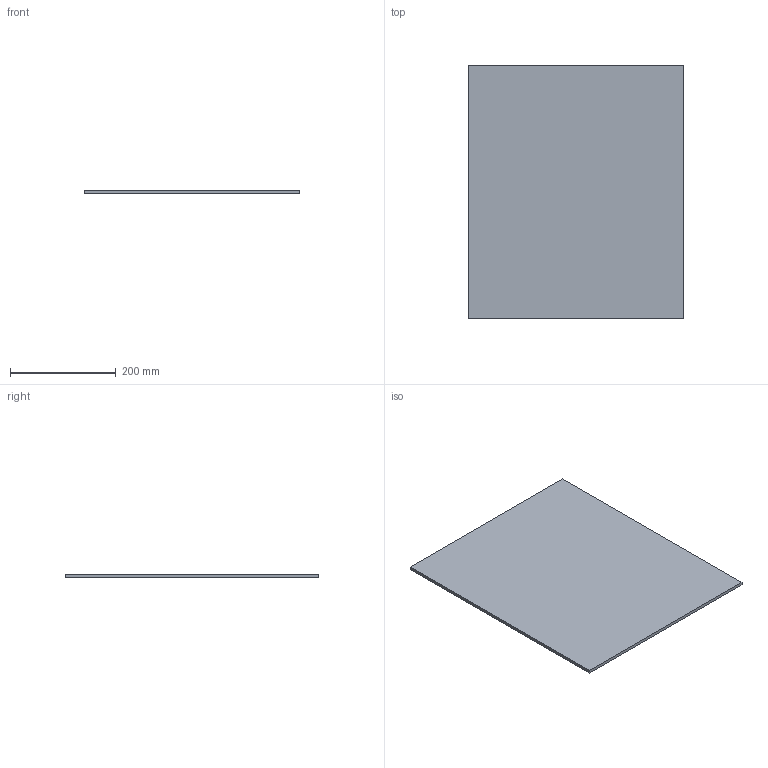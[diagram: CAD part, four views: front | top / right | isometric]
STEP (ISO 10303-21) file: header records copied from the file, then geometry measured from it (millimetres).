
FILE_DESCRIPTION (( 'STEP AP214' ), '1' );
FILE_NAME ('Lochblech_NL500_KAB500_16.step', '2010-10-11T13:38:33', ( 'grass' ), ( '' ), 'SwSTEP 2.0', 'SolidWorks 2010', '' );
FILE_SCHEMA (( 'AUTOMOTIVE_DESIGN' ));
Length unit declared in the file: millimetre
Products named in the file (1): Lochblech_NL500_KAB500_16
Bounding box: 408 x 479 x 6 mm (x, y, z)
Volume: 1172592 mm3; surface area: 401508 mm2
Topology: 1 solids, 1 shells, 6 faces, 12 edges, 8 vertices
Faces by surface type: plane 6
Entity records: 190 total; most frequent: CARTESIAN_POINT 27, DIRECTION 26, ORIENTED_EDGE 24, EDGE_CURVE 12, LINE 12, VECTOR 12, VERTEX_POINT 8, AXIS2_PLACEMENT_3D 7
